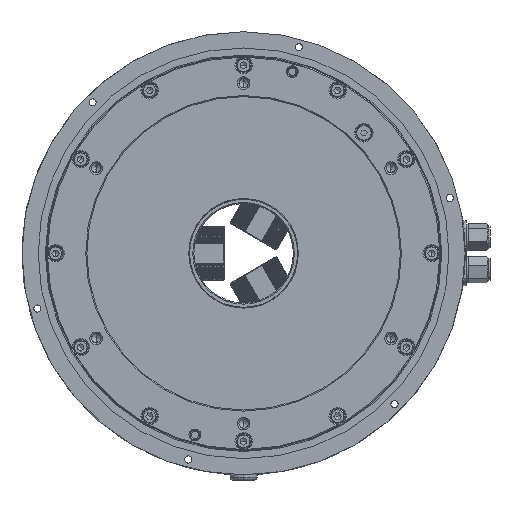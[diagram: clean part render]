
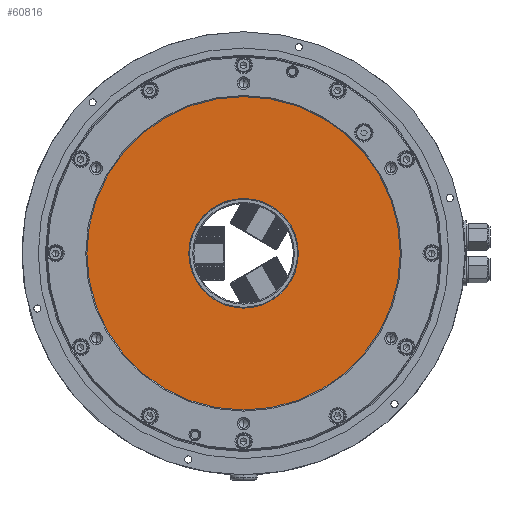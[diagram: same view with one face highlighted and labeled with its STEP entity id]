
A CAD part, left-side view. The second image highlights one B-rep face of the part: STEP entity #60816.
In plain terms, the highlighted planar face has unit normal (-1, 0, 0).
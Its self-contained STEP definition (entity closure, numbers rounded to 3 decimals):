
#4301 = DIRECTION ( 'NONE',  ( 1., 0., 0. ) ) ;
#15288 = DIRECTION ( 'NONE',  ( 0., 0., 1. ) ) ;
#19127 = VERTEX_POINT ( 'NONE', #132017 ) ;
#38800 = DIRECTION ( 'NONE',  ( 1., 0., 0. ) ) ;
#40344 = VERTEX_POINT ( 'NONE', #93274 ) ;
#40960 = VERTEX_POINT ( 'NONE', #156002 ) ;
#44276 = CARTESIAN_POINT ( 'NONE',  ( -147., 145., 0. ) ) ;
#46067 = DIRECTION ( 'NONE',  ( -1., 0., 0. ) ) ;
#46837 = CARTESIAN_POINT ( 'NONE',  ( -147., 0., 0. ) ) ;
#47706 = DIRECTION ( 'NONE',  ( 0., 0., -1. ) ) ;
#51502 = EDGE_CURVE ( 'NONE', #40960, #123281, #52662, .T. ) ;
#52230 = DIRECTION ( 'NONE',  ( 1., 0., 0. ) ) ;
#52662 = CIRCLE ( 'NONE', #153746, 145. ) ;
#60816 = ADVANCED_FACE ( 'NONE', ( #101247, #99447 ), #142864, .T. ) ;
#61050 = EDGE_LOOP ( 'NONE', ( #73962, #153688 ) ) ;
#62704 = CARTESIAN_POINT ( 'NONE',  ( -147., 0., 0. ) ) ;
#63353 = EDGE_CURVE ( 'NONE', #123281, #40960, #149592, .T. ) ;
#70918 = AXIS2_PLACEMENT_3D ( 'NONE', #62704, #78061, #88997 ) ;
#71645 = AXIS2_PLACEMENT_3D ( 'NONE', #148072, #52230, #148973 ) ;
#73962 = ORIENTED_EDGE ( 'NONE', *, *, #130345, .T. ) ;
#78061 = DIRECTION ( 'NONE',  ( 1., 0., 0. ) ) ;
#87755 = EDGE_LOOP ( 'NONE', ( #105380, #145553 ) ) ;
#88997 = DIRECTION ( 'NONE',  ( 0., 0., -1. ) ) ;
#93274 = CARTESIAN_POINT ( 'NONE',  ( -147., 0., -50.7 ) ) ;
#94010 = DIRECTION ( 'NONE',  ( 0., 0., -1. ) ) ;
#99447 = FACE_OUTER_BOUND ( 'NONE', #87755, .T. ) ;
#101247 = FACE_BOUND ( 'NONE', #61050, .T. ) ;
#105380 = ORIENTED_EDGE ( 'NONE', *, *, #51502, .F. ) ;
#112288 = AXIS2_PLACEMENT_3D ( 'NONE', #44276, #46067, #15288 ) ;
#123281 = VERTEX_POINT ( 'NONE', #132691 ) ;
#130345 = EDGE_CURVE ( 'NONE', #40344, #19127, #170347, .T. ) ;
#132017 = CARTESIAN_POINT ( 'NONE',  ( -147., 0., 50.7 ) ) ;
#132691 = CARTESIAN_POINT ( 'NONE',  ( -147., 0., 145. ) ) ;
#142864 = PLANE ( 'NONE',  #112288 ) ;
#145553 = ORIENTED_EDGE ( 'NONE', *, *, #63353, .F. ) ;
#146017 = CIRCLE ( 'NONE', #70918, 50.7 ) ;
#148072 = CARTESIAN_POINT ( 'NONE',  ( -147., 0., 0. ) ) ;
#148973 = DIRECTION ( 'NONE',  ( 0., 0., -1. ) ) ;
#149592 = CIRCLE ( 'NONE', #71645, 145. ) ;
#153688 = ORIENTED_EDGE ( 'NONE', *, *, #167488, .T. ) ;
#153746 = AXIS2_PLACEMENT_3D ( 'NONE', #46837, #4301, #47706 ) ;
#156002 = CARTESIAN_POINT ( 'NONE',  ( -147., 0., -145. ) ) ;
#162741 = CARTESIAN_POINT ( 'NONE',  ( -147., 0., 0. ) ) ;
#167488 = EDGE_CURVE ( 'NONE', #19127, #40344, #146017, .T. ) ;
#170347 = CIRCLE ( 'NONE', #173330, 50.7 ) ;
#173330 = AXIS2_PLACEMENT_3D ( 'NONE', #162741, #38800, #94010 ) ;
